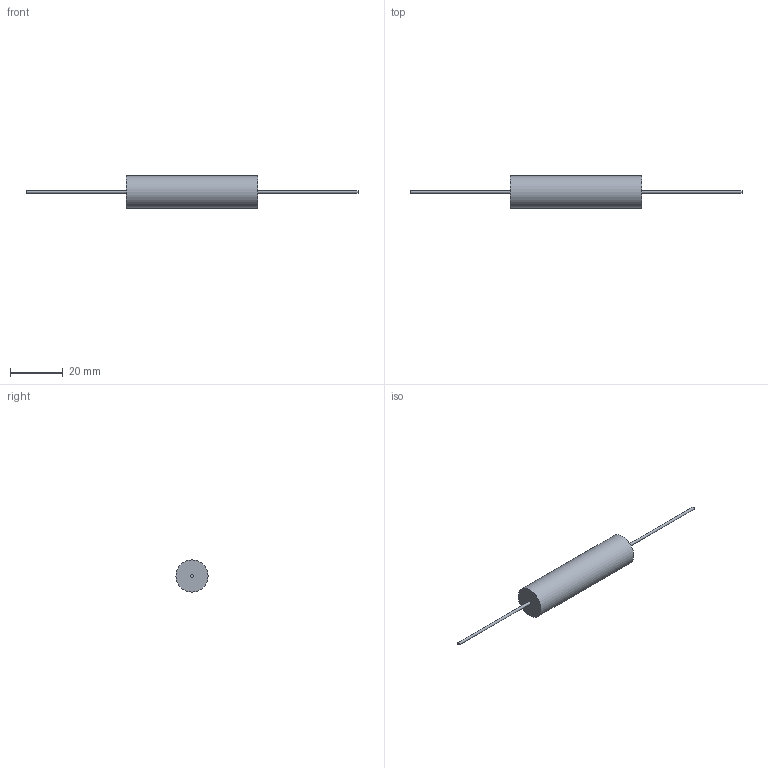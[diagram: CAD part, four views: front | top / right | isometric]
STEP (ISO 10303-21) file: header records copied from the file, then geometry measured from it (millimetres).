
FILE_DESCRIPTION(/* description */ (''),/* implementation_level */ '2;1');
FILE_NAME(/* name */ 'C:\Users\mulla\Documents\SEI Models\Inventor Files\WW_MWW_NWW_WWS\3D\MWW10_NMWW10_stp.stp',/* time_stamp */ '2019-07-10T21:32:01-04:00',/* author */ ('mulla'),/* organization */ (''),/* preprocessor_version */ 'ST-DEVELOPER v16.1',/* originating_system */ 'Autodesk Inventor 2016',/* authorisation */ '');
FILE_SCHEMA (('AUTOMOTIVE_DESIGN { 1 0 10303 214 3 1 1 }'));
Length unit declared in the file: millimetre
Products named in the file (1): MWW10_NMWW10
Bounding box: 126.11 x 12.19 x 12.19 mm (x, y, z)
Volume: 5887.1 mm3; surface area: 2392.2 mm2
Topology: 3 solids, 3 shells, 9 faces, 9 edges, 6 vertices
Faces by surface type: plane 6, cylinder 3
Full cylindrical faces by diameter (mm): 1.02 x2, 12.19 x1
Entity records: 199 total; most frequent: DIRECTION 32, CARTESIAN_POINT 22, AXIS2_PLACEMENT_3D 16, EDGE_LOOP 12, ORIENTED_EDGE 12, STYLED_ITEM 12, FACE_OUTER_BOUND 9, ADVANCED_FACE 9
